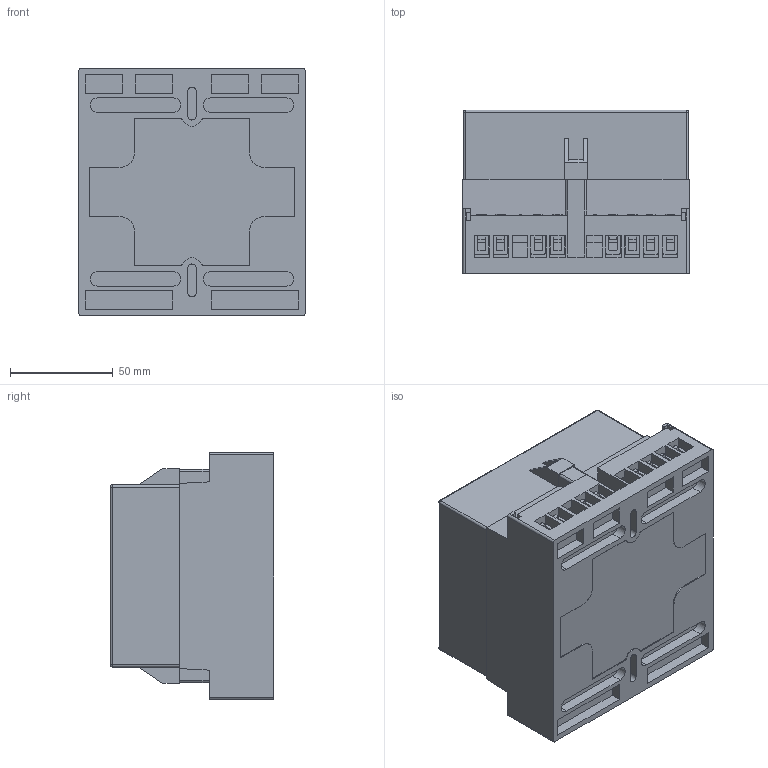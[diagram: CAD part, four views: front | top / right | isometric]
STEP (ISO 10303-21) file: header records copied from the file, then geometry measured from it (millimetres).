
FILE_DESCRIPTION (( 'STEP AP214' ), '1' );
FILE_NAME ('E849-1ES.STEP', '2021-09-14T12:58:23', ( 'mvs' ), ( '' ), 'SwSTEP 2.0', 'SolidWorks 2020', '' );
FILE_SCHEMA (( 'AUTOMOTIVE_DESIGN' ));
Length unit declared in the file: millimetre
Products named in the file (7): pan slot head_am_B18.6.7M - M2 x 0.4 x 4 Slotted PHMS --4N; Êðûøêà âåðõí; Êîïèÿ Å855_2ÝÑ^E849-1ES; ﾎ魵瑙韃; E849-1ES; pan slot head_am_B18.6.7M - M3 x 0.5 x 8 Slotted PHMS --8N; Êðåïëåíèå ìåòàëë
Assembly tree (31 placements, depth 2):
  E849-1ES
    ﾎ魵瑙韃
    Êðûøêà âåðõí
    Êðåïëåíèå ìåòàëë  x13
    pan slot head_am_B18.6.7M - M3 x 0.5 x 8 Slotted PHMS --8N  x13
    Êîïèÿ Å855_2ÝÑ^E849-1ES
    pan slot head_am_B18.6.7M - M2 x 0.4 x 4 Slotted PHMS --4N  x2
Bounding box: 110 x 79.5 x 120 mm (x, y, z)
Volume: 829128.7 mm3; surface area: 128048.9 mm2
Topology: 66 solids, 66 shells, 1760 faces, 4528 edges, 2919 vertices
Faces by surface type: plane 1006, bspline 393, cylinder 290, sphere 56, torus 15
Full cylindrical faces by diameter (mm): 2 x2, 3 x26, 4 x2, 5.6 x13, 10 x1
Entity records: 56962 total; most frequent: CARTESIAN_POINT 25659, ORIENTED_EDGE 6316, DIRECTION 4146, EDGE_CURVE 3158, VECTOR 2236, LINE 2236, VERTEX_POINT 2100, EDGE_LOOP 1316
